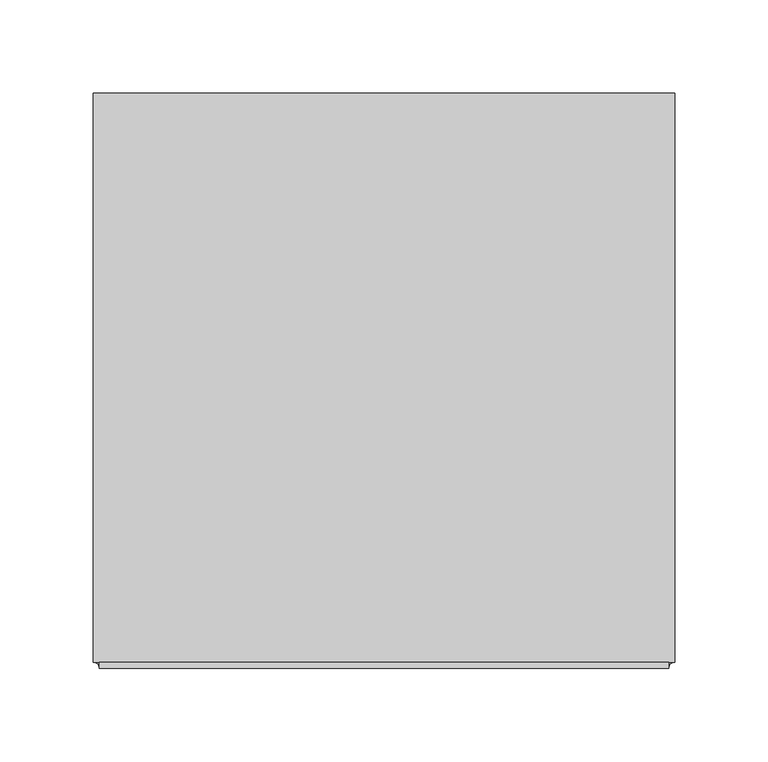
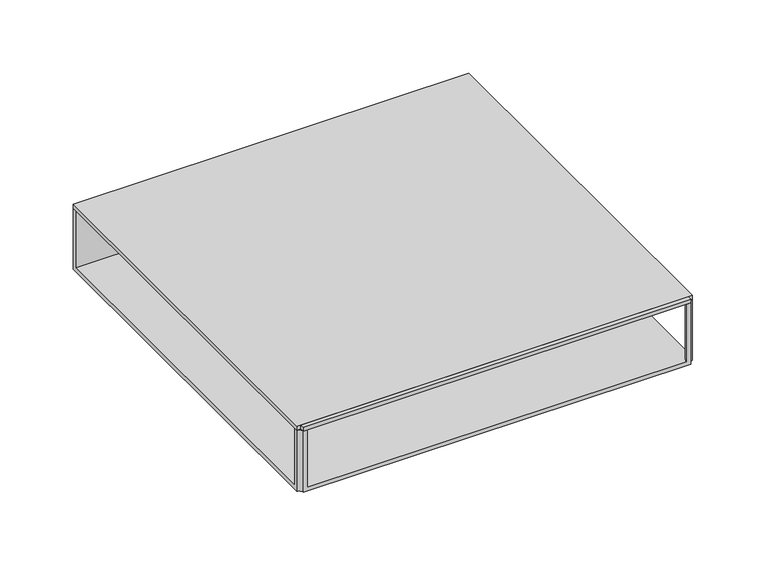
"""IFC4 building model written with IfcOpenShell, lengths in millimetres: cable carrier fitting geometry, Tee-Cablofil-Wire_Mesh_Cable_Tray : EZ T 90 KIT."""

from ifc_helpers import new_model, si_unit, frame, origin, place, context, project, spatial, polyline, circle_curve, outline, extrude, source, transform, mapped, element, save
from ifc_brep_helpers import plane_surface, cylinder_surface, revolved_surface, advanced_brep


def cable_carrier_fitting_910f61e4(model_context):
    return source(origin(), model_context, "Body", "SolidModel", [
        extrude(outline(polyline([(152.4, -152.4), (152.4, -155.575), (-152.4, -155.575), (-152.4, -152.4), (152.4, -152.4)])), frame((0.0, 0.0, 25.4), z_axis=(0.0, 0.0, 1.0), x_axis=(1.0, 0.0, 0.0)), (0.0, 0.0, 1.0), 3.175),
        extrude(outline(polyline([(155.575, 152.4), (155.575, -152.4), (-155.575, -152.4), (-155.575, 152.4), (155.575, 152.4)])), frame((0.0, 0.0, 25.4), z_axis=(0.0, 0.0, 1.0), x_axis=(1.0, 0.0, 0.0)), (0.0, 0.0, 1.0), 3.175),
        advanced_brep(
        [(-152.4, -155.575, 25.4), (-149.225, -155.575, 25.4), (-155.575, -149.225, 25.4), (-155.575, -152.4, 25.4), (152.4, -155.575, 25.4), (155.575, -152.4, 25.4), (155.575, -149.225, 25.4), (149.225, -155.575, 25.4), (155.575, 152.4, 25.4), (-155.575, 152.4, 25.4), (-155.575, 149.225, 25.4), (155.575, 149.225, 25.4), (-152.4, -155.575, -25.4), (-155.575, -152.4, -25.4), (-155.575, 152.4, -25.4), (155.575, 152.4, -25.4), (155.575, -152.4, -25.4), (152.4, -155.575, -25.4), (149.225, -155.575, -22.225), (-149.225, -155.575, -22.225), (-155.575, -149.225, -22.225), (-155.575, 149.225, -22.225), (155.575, 149.225, -22.225), (155.575, -149.225, -22.225)],
        [
            (0, 1),
            (1, 2, circle_curve(frame((-155.575, -155.575, 25.4), z_axis=(0.0, 0.0, 1.0), x_axis=(1.0, 0.0, 0.0)), 6.35)),
            (2, 3),
            (3, 0, circle_curve(frame((-155.575, -155.575, 25.4), z_axis=(0.0, 0.0, -1.0), x_axis=(1.0, 0.0, 0.0)), 3.175)),
            (4, 5, circle_curve(frame((155.575, -155.575, 25.4), z_axis=(0.0, 0.0, -1.0), x_axis=(1.0, 0.0, 0.0)), 3.175)),
            (5, 6),
            (6, 7, circle_curve(frame((155.575, -155.575, 25.4), z_axis=(0.0, 0.0, 1.0), x_axis=(1.0, 0.0, 0.0)), 6.35)),
            (7, 4),
            (8, 9),
            (9, 10),
            (10, 11),
            (11, 8),
            (12, 13, circle_curve(frame((-155.575, -155.575, -25.4), z_axis=(0.0, 0.0, 1.0), x_axis=(1.0, 0.0, 0.0)), 3.175)),
            (13, 14),
            (14, 15),
            (15, 16),
            (16, 17, circle_curve(frame((155.575, -155.575, -25.4), z_axis=(0.0, 0.0, 1.0), x_axis=(1.0, 0.0, 0.0)), 3.175)),
            (17, 12),
            (0, 12),
            (17, 4),
            (7, 18),
            (18, 19),
            (19, 1),
            (19, 20, circle_curve(frame((-155.575, -155.575, -22.225), z_axis=(0.0, 0.0, 1.0), x_axis=(1.0, 0.0, 0.0)), 6.35)),
            (20, 2),
            (20, 21),
            (21, 10),
            (9, 14),
            (13, 3),
            (16, 5),
            (15, 8),
            (11, 22),
            (22, 23),
            (23, 6),
            (23, 18, circle_curve(frame((155.575, -155.575, -22.225), z_axis=(0.0, 0.0, 1.0), x_axis=(1.0, 0.0, 0.0)), 6.35)),
            (21, 22),
        ],
        [
            plane_surface(frame((-152.4, -155.575, 25.4), z_axis=(0.0, 0.0, 1.0), x_axis=(1.0, 0.0, 0.0))),
            plane_surface(frame((-152.4, -155.575, -25.4), z_axis=(0.0, 0.0, -1.0), x_axis=(-1.0, 0.0, 0.0))),
            plane_surface(frame((-152.4, -155.575, 25.4), z_axis=(0.0, -1.0, 0.0), x_axis=(0.0, 0.0, -1.0))),
            cylinder_surface(frame((-155.575, -155.575, -25.4), z_axis=(0.0, 0.0, 1.0), x_axis=(1.0, 0.0, 0.0)), 6.35),
            plane_surface(frame((-155.575, -149.225, 25.4), z_axis=(-1.0, 0.0, 0.0), x_axis=(0.0, 0.0, -1.0))),
            revolved_surface(polyline([(-152.39999999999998, -155.575, -25.4), (-152.39999999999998, -155.575, 25.4)]), (-155.575, -155.575, -25.4), (0.0, 0.0, -1.0)),
            revolved_surface(polyline([(158.75, -155.575, -25.4), (158.75, -155.575, 25.4)]), (155.575, -155.575, 0.0), (0.0, 0.0, -1.0)),
            plane_surface(frame((155.575, -152.4, 25.4), z_axis=(1.0, 0.0, 0.0), x_axis=(0.0, 0.0, -1.0))),
            cylinder_surface(frame((155.575, -155.575, 0.0), z_axis=(0.0, 0.0, 1.0), x_axis=(1.0, 0.0, 0.0)), 6.35),
            plane_surface(frame((155.575, 152.4, 25.4), z_axis=(0.0, 1.0, 0.0), x_axis=(0.0, 0.0, -1.0))),
            plane_surface(frame((-155.575, 149.225, 25.4), z_axis=(0.0, -1.0, 0.0), x_axis=(0.0, 0.0, -1.0))),
            plane_surface(frame((-152.4, -155.575, -22.225), z_axis=(0.0, 0.0, 1.0), x_axis=(1.0, 0.0, 0.0))),
        ],
        [
            (0, [[1, 2, 3, 4]]),
            (0, [[5, 6, 7, 8]]),
            (0, [[9, 10, 11, 12]]),
            (1, [[13, 14, 15, 16, 17, 18]]),
            (2, [[-1, 19, -18, 20, -8, 21, 22, 23]]),
            (3, [[-2, -23, 24, 25]]),
            (4, [[-3, -25, 26, 27, -10, 28, -14, 29]]),
            (5, [[-19, -4, -29, -13]]),
            (6, [[30, -5, -20, -17]]),
            (7, [[-6, -30, -16, 31, -12, 32, 33, 34]]),
            (8, [[-7, -34, 35, -21]]),
            (9, [[-28, -9, -31, -15]]),
            (10, [[-11, -27, 36, -32]]),
            (11, [[-22, -35, -33, -36, -26, -24]]),
        ],
    ),
    ])


if __name__ == "__main__":
    model = new_model("IFC4")
    model_context = context("Model", 3, world=origin())
    ifc_project = project(units=[si_unit("LENGTHUNIT", "METRE", prefix="MILLI")], contexts=[model_context])
    site = spatial("IfcSite", under=ifc_project)
    building = spatial("IfcBuilding", under=site)
    placement = place(None, origin())
    cable_carrier_fitting_shape = cable_carrier_fitting_910f61e4(model_context)
    element("IfcCableCarrierFitting", 1, ObjectType="Tee-Cablofil-Wire_Mesh_Cable_Tray : EZ T 90 KIT", at=placement, inside=building, context=model_context, shape_type="MappedRepresentation", body=[
        mapped(cable_carrier_fitting_shape, transform((0.0, 0.0, 0.0), x_axis=(1.0, 0.0, 0.0), y_axis=(0.0, 1.0, 0.0), z_axis=(0.0, 0.0, 1.0))),
    ])
    save(model, "model.ifc")
